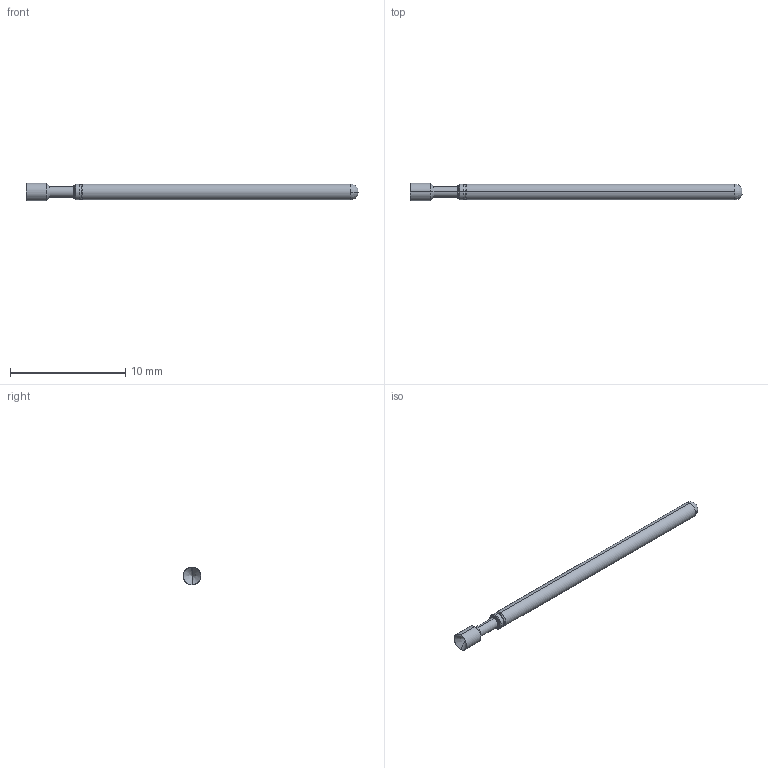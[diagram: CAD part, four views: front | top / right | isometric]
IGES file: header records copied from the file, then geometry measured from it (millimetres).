
Start section: SolidWorks IGES file using analytic representation for surfaces
Global section: file name: Z:\probe solid model mockups\Solidworks models\POGO-25 IGS files\POGO-25A RECD.IGS; native system: SolidWorks 2006 by SolidWorks Corporation; preprocessor: SolidWorks 2006 by SolidWorks Corporation; author: tsakatani; date: 071214.084243; units: inch
Bounding box: 28.78 x 1.52 x 1.52 mm (x, y, z)
Surface area: 125.7 mm2 (no closed solid volume)
Topology: 0 solids, 0 shells, 24 faces, 140 edges, 138 vertices
Faces by surface type: revolution 18, bspline 6
